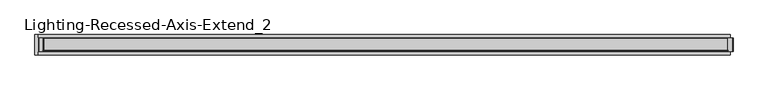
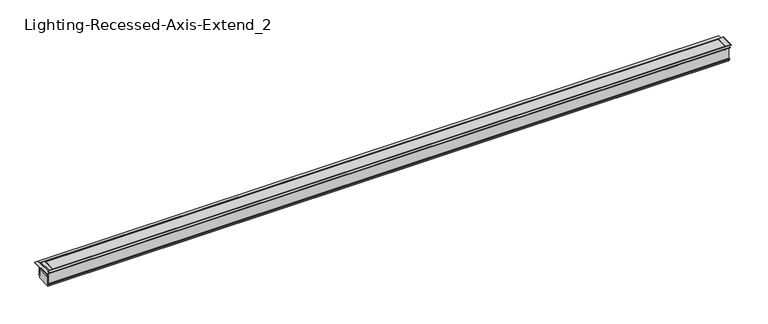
"""IFC4 building model written with IfcOpenShell, lengths in millimetres: light fixture geometry, Lighting-Recessed-Axis-Extend_2 : EX2R-900-80-35-SO-4."""

from ifc_helpers import new_model, si_unit, point, frame, frame_2d, origin, place, context, project, spatial, polyline, circle_curve, trimmed, segment, composite_curve, outline, extrude, faceted_brep, source, transform, mapped, element, save


def lighting_recessed_axis_extend_2_b15b8388(model_context):
    return source(origin(), model_context, "Body", "SolidModel", [
        extrude(outline(polyline([(34.29, -57.023), (38.954552, -57.023), (38.954552, -58.674), (32.004, -58.674), (32.004, 1.651), (45.593, 1.651), (45.593, 0.0), (34.29, 0.0), (34.29, -57.023)])), frame((-1545.336, 0.0, 0.0), z_axis=(1.0, 0.0, 0.0), x_axis=(0.0, 1.0, 0.0)), (0.0, 0.0, 1.0), 3078.4927),
        extrude(outline(polyline([(-34.29, -57.023), (-34.29, 0.0), (-45.593, 0.0), (-45.593, 1.651), (-32.004, 1.651), (-32.004, -58.674), (-38.954552, -58.674), (-38.954552, -57.023), (-34.29, -57.023)])), frame((-1545.336, 0.0, 0.0), z_axis=(1.0, 0.0, 0.0), x_axis=(0.0, 1.0, 0.0)), (0.0, 0.0, 1.0), 3078.4927),
        extrude(outline(polyline([(0.5492861, 1545.2598), (1.651, 1544.3352563), (1.651, 1521.9781437), (0.5492861, 1521.0536), (-0.92075, 1521.0536), (-0.92075, 1521.84735), (-0.127, 1521.84735), (-0.127, 1528.318), (-2.9332019, 1528.318), (-2.9332019, 1537.9954), (-0.127, 1537.9954), (-0.127, 1544.46605), (-0.92075, 1544.46605), (-0.92075, 1545.2598), (0.5492861, 1545.2598)])), frame((0.0, -29.972, 0.0), z_axis=(0.0, 1.0, 0.0), x_axis=(0.0, 0.0, 1.0)), (0.0, 0.0, 1.0), 59.944),
        faceted_brep([(-1547.622, -32.004, 0.0), (-1547.622, -32.004, -23.749), (-1545.336, -32.004, -23.749), (-1545.336, -32.004, 0.0), (-1545.336, 32.004, 0.0), (-1545.336, 32.004, -23.749), (-1547.622, 32.004, -23.749), (-1547.622, 32.004, 0.0), (-1545.336, 45.593, 0.0), (-1545.336, 45.593, 1.651), (-1545.336, -45.593, 1.651), (-1545.336, -45.593, 0.0), (-1559.179, -45.593, 0.0), (-1559.179, -45.593, 1.651), (-1559.179, 45.593, 0.0), (-1559.179, 45.593, 1.651)], [[[0, 1, 2, 3]], [[4, 5, 6, 7]], [[1, 0, 7, 6]], [[2, 1, 6, 5]], [[3, 2, 5, 4, 8, 9, 10, 11]], [[12, 11, 10, 13]], [[14, 15, 9, 8]], [[13, 10, 9, 15]], [[12, 13, 15, 14]], [[11, 12, 14, 8, 4, 7, 0, 3]]]),
        extrude(outline(polyline([(0.5492861, -1520.6726), (1.651, -1521.5971437), (1.651, -1538.986), (-2.9332019, -1538.986), (-2.9332019, -1528.318), (-0.127, -1528.318), (-0.127, -1521.46635), (-0.92075, -1521.46635), (-0.92075, -1520.6726), (0.5492861, -1520.6726)])), frame((0.0, -29.972, 0.0), z_axis=(0.0, 1.0, 0.0), x_axis=(0.0, 0.0, 1.0)), (0.0, 0.0, 1.0), 59.944),
        extrude(outline(polyline([(-1538.986, 32.004), (-1538.986, -32.004), (-1545.336, -32.004), (-1545.336, 32.004), (-1538.986, 32.004)])), frame((0.0, 0.0, -69.7865), z_axis=(0.0, 0.0, 1.0), x_axis=(1.0, 0.0, 0.0)), (0.0, 0.0, 1.0), 71.4375),
        extrude(outline(composite_curve([segment(polyline([(-24.1727262, -3.2385009), (-24.5114181, -9.7011263)]), True, "CONTINUOUS"), segment(trimmed(circle_curve(frame_2d((-27.2542, -12.7)), 4.064), [point((-24.5114181, -9.7011263))], [point((-25.3818814, -16.3070097))], False, "CARTESIAN"), True, "CONTINUOUS"), segment(trimmed(circle_curve(frame_2d((-22.149344, -15.5181543)), 3.3274001), [point((-25.3818814, -16.3070097))], [point((-24.5665956, -17.8047425))], True, "CARTESIAN"), True, "CONTINUOUS"), segment(trimmed(circle_curve(frame_2d((-17.1303177, -10.7704292)), 10.2362001), [point((-24.5665956, -17.8047425))], [point((-23.2119066, -19.0041445))], True, "CARTESIAN"), True, "CONTINUOUS"), segment(trimmed(circle_curve(frame_2d((-23.7023573, -19.6681538)), 0.8255), [point((-23.2119066, -19.0041445))], [point((-24.192808, -20.3321631))], False, "CARTESIAN"), True, "CONTINUOUS"), segment(trimmed(circle_curve(frame_2d((-17.1303169, -10.7704283)), 11.8872013), [point((-24.192808, -20.3321631))], [point((-25.7659952, -18.9393092))], False, "CARTESIAN"), True, "CONTINUOUS"), segment(trimmed(circle_curve(frame_2d((-22.149344, -15.5181543)), 4.9784001), [point((-25.7659952, -18.9393092))], [point((-27.1108807, -15.10874))], False, "CARTESIAN"), True, "CONTINUOUS"), segment(trimmed(circle_curve(frame_2d((-27.2542, -12.7)), 2.413), [point((-27.1108807, -15.10874))], [point((-25.4753941, -11.0695342))], True, "CARTESIAN"), True, "CONTINUOUS"), segment(trimmed(circle_curve(frame_2d((-23.6029669, -9.3532544)), 2.54), [point((-25.4753941, -11.0695342))], [point((-26.1394859, -9.2203211))], False, "CARTESIAN"), True, "CONTINUOUS"), segment(polyline([(-26.1394859, -9.2203211), (-25.825992, -3.2385009), (-28.829, -3.2385009), (-28.829, -1.3335), (28.829, -1.3335), (28.829, -3.2385009), (25.825992, -3.2385009), (26.1394859, -9.2203211)]), True, "CONTINUOUS"), segment(trimmed(circle_curve(frame_2d((23.6029669, -9.3532544)), 2.54), [point((26.1394859, -9.2203211))], [point((25.4753941, -11.0695342))], False, "CARTESIAN"), True, "CONTINUOUS"), segment(trimmed(circle_curve(frame_2d((27.2542, -12.7)), 2.413), [point((25.4753941, -11.0695342))], [point((27.1108807, -15.10874))], True, "CARTESIAN"), True, "CONTINUOUS"), segment(trimmed(circle_curve(frame_2d((22.149344, -15.5181543)), 4.9784001), [point((27.1108807, -15.10874))], [point((25.7659952, -18.9393092))], False, "CARTESIAN"), True, "CONTINUOUS"), segment(trimmed(circle_curve(frame_2d((17.1303169, -10.7704283)), 11.8872013), [point((25.7659952, -18.9393092))], [point((24.192808, -20.3321631))], False, "CARTESIAN"), True, "CONTINUOUS"), segment(trimmed(circle_curve(frame_2d((23.7023573, -19.6681538)), 0.8255), [point((24.192808, -20.3321631))], [point((23.2119066, -19.0041445))], False, "CARTESIAN"), True, "CONTINUOUS"), segment(trimmed(circle_curve(frame_2d((17.1303177, -10.7704292)), 10.2362001), [point((23.2119066, -19.0041445))], [point((24.5665956, -17.8047425))], True, "CARTESIAN"), True, "CONTINUOUS"), segment(trimmed(circle_curve(frame_2d((22.149344, -15.5181543)), 3.3274001), [point((24.5665956, -17.8047425))], [point((25.3818814, -16.3070097))], True, "CARTESIAN"), True, "CONTINUOUS"), segment(trimmed(circle_curve(frame_2d((27.2542, -12.7)), 4.064), [point((25.3818814, -16.3070097))], [point((24.5114181, -9.7011263))], False, "CARTESIAN"), True, "CONTINUOUS"), segment(polyline([(24.5114181, -9.7011263), (24.1727262, -3.2385009), (-24.1727262, -3.2385009)]), True, "CONTINUOUS")], self_intersect=False)), frame((-1524.0, 0.0, 0.0), z_axis=(1.0, 0.0, 0.0), x_axis=(0.0, 1.0, 0.0)), (0.0, 0.0, 1.0), 3048.0),
        extrude(outline(composite_curve([segment(polyline([(-29.972, -13.2588), (-29.972, -67.7545), (29.972, -67.7545), (29.972, -13.2588), (28.1325797, -13.2588)]), True, "CONTINUOUS"), segment(trimmed(circle_curve(frame_2d((26.6262297, -13.2588)), 1.5063501), [point((28.1325797, -13.2588))], [point((25.8730546, -14.5633374))], False, "CARTESIAN"), True, "CONTINUOUS"), segment(trimmed(circle_curve(frame_2d((27.0642121, -12.5001921)), 2.382315), [point((25.8730546, -14.5633374))], [point((24.6896516, -12.3081318))], False, "CARTESIAN"), True, "CONTINUOUS"), segment(polyline([(24.6896516, -12.3081318), (28.067, -9.4742), (28.067, -11.2268), (29.972, -11.2268), (29.972, -4.699), (28.067, -4.699), (28.067, -6.223), (26.416, -6.1364748), (26.416, -3.429), (29.972, -3.429), (29.972, 1.651), (32.004, 1.651), (32.004, -69.7865), (-32.004, -69.7865), (-32.004, 1.651), (-29.972, 1.651), (-29.972, -3.429), (-26.416, -3.429), (-26.416, -6.1364748), (-28.067, -6.223), (-28.067, -4.699), (-29.972, -4.699), (-29.972, -11.2268), (-28.067, -11.2268), (-28.067, -9.4742), (-24.6896516, -12.3081318)]), True, "CONTINUOUS"), segment(trimmed(circle_curve(frame_2d((-27.0642121, -12.5001921)), 2.382315), [point((-24.6896516, -12.3081318))], [point((-25.8730546, -14.5633374))], False, "CARTESIAN"), True, "CONTINUOUS"), segment(trimmed(circle_curve(frame_2d((-26.6262297, -13.2588)), 1.5063501), [point((-25.8730546, -14.5633374))], [point((-28.1325797, -13.2588))], False, "CARTESIAN"), True, "CONTINUOUS"), segment(polyline([(-28.1325797, -13.2588), (-29.972, -13.2588)]), True, "CONTINUOUS")], self_intersect=False)), frame((-1538.986, 0.0, 0.0), z_axis=(1.0, 0.0, 0.0), x_axis=(0.0, 1.0, 0.0)), (0.0, 0.0, 1.0), 3072.1427),
    ])


if __name__ == "__main__":
    model = new_model("IFC4")
    model_context = context("Model", 3, world=origin())
    ifc_project = project(units=[si_unit("LENGTHUNIT", "METRE", prefix="MILLI")], contexts=[model_context])
    site = spatial("IfcSite", under=ifc_project)
    building = spatial("IfcBuilding", under=site)
    placement = place(None, origin())
    lighting_recessed_axis_extend_2_shape = lighting_recessed_axis_extend_2_b15b8388(model_context)
    element("IfcLightFixture", 1, ObjectType="Lighting-Recessed-Axis-Extend_2 : EX2R-900-80-35-SO-4", at=placement, inside=building, context=model_context, shape_type="MappedRepresentation", body=[
        mapped(lighting_recessed_axis_extend_2_shape, transform((0.0, 0.0, 0.0), x_axis=(1.0, 0.0, 0.0), y_axis=(0.0, 1.0, 0.0), z_axis=(0.0, 0.0, 1.0))),
    ])
    save(model, "model.ifc")
